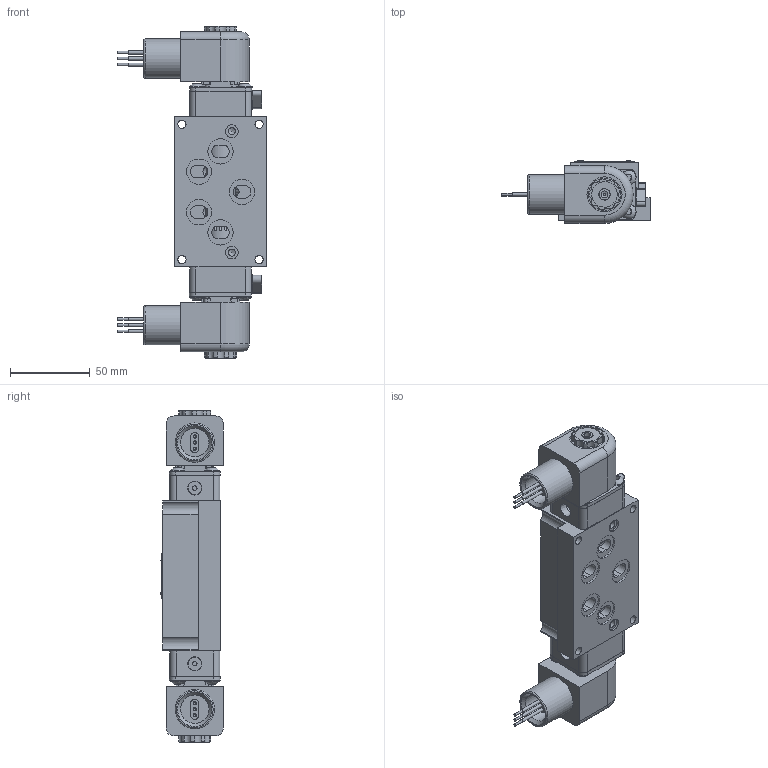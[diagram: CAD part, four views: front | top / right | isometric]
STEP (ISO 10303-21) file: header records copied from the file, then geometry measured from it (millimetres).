
FILE_DESCRIPTION(/* description */ (''),/* implementation_level */ '2;1');
FILE_NAME(/* name */ 'ESS3PXOZ.stp',/* time_stamp */ '2026-09-27T14:34:33-04:00',/* author */ ('rmckenna'),/* organization */ (''),/* preprocessor_version */ 'ST-DEVELOPER v20.2',/* originating_system */ 'Autodesk Inventor 2027',/* authorisation */ '');
FILE_SCHEMA (('AUTOMOTIVE_DESIGN { 1 0 10303 214 3 1 1 }'));
Products named in the file (1): Part109
Bounding box: 92.94 x 39.5 x 208.3 mm (x, y, z)
Volume: 280790.9 mm3; surface area: 94711.2 mm2
Topology: 1 solids, 30 shells, 1969 faces, 4788 edges, 3045 vertices
Faces by surface type: plane 851, cylinder 637, cone 262, torus 151, bspline 58, sphere 10
Full cylindrical faces by diameter (mm): 1.3 x2, 1.397 x2, 1.5 x4, 1.524 x6, 2.032 x22, 2.07 x2, 2.261 x2, 2.35 x8, 2.5 x2, 2.778 x2, 2.8 x2, 3 x8, 3.048 x2, 3.4 x2, 3.683 x10, 3.861 x2, 4.191 x4, 4.305 x2, 4.366 x2, 4.369 x3, 4.826 x8, 5.15 x8, 5.156 x8, 5.159 x4, 5.5 x2, 6.65 x2, 6.9 x2, 7.188 x2, 7.75 x2, 7.9 x2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
Entity records: 63634 total; most frequent: CARTESIAN_POINT 14631, DIRECTION 10106, ORIENTED_EDGE 9536, EDGE_CURVE 4768, AXIS2_PLACEMENT_3D 3906, VERTEX_POINT 3045, LINE 2294, VECTOR 2294
